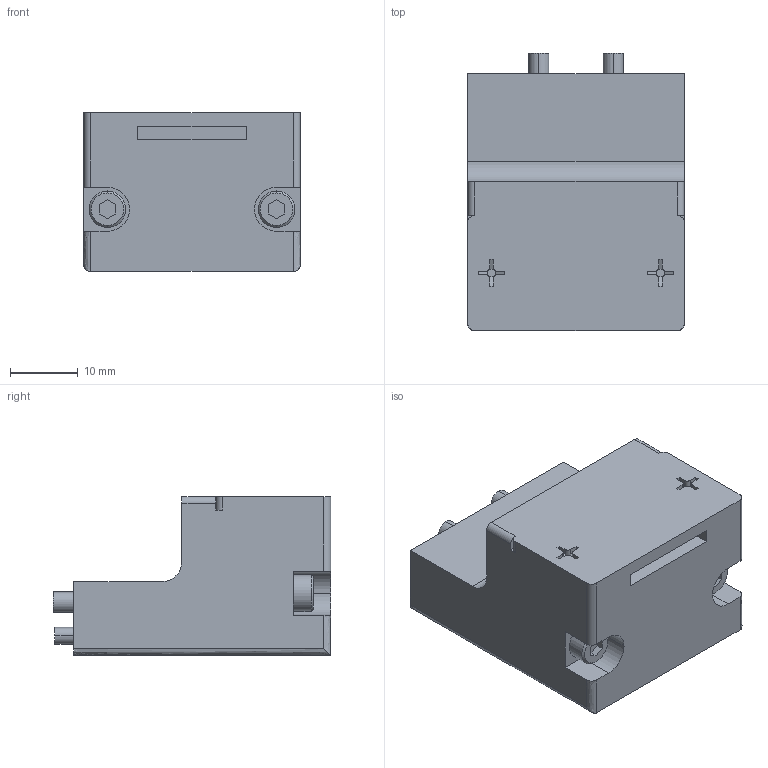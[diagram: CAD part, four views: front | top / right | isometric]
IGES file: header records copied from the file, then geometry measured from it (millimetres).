
Start section: 3D InterOp IGES (v. 2022 1.0.0), Spatial Corp. Copyright (c) 1999-2020.
Global section: file name: KHG-12RS-D38_ver1.igs; native system: Spatial Corp.; preprocessor: 3D InterOp GENERIC/IGES 3.0; author: Noname; organization: Noname; date: 20260518.090443; units: millimetre
Bounding box: 32 x 41 x 23.5 mm (x, y, z)
Surface area: 8245.4 mm2 (no closed solid volume)
Topology: 0 solids, 0 shells, 309 faces, 1380 edges, 1380 vertices
Faces by surface type: extrusion 167, revolution 142
